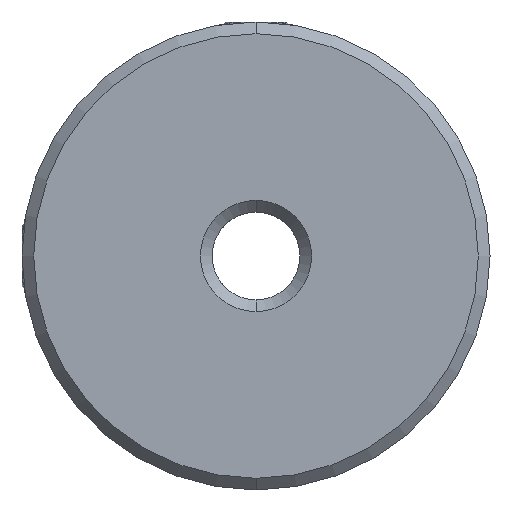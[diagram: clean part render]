
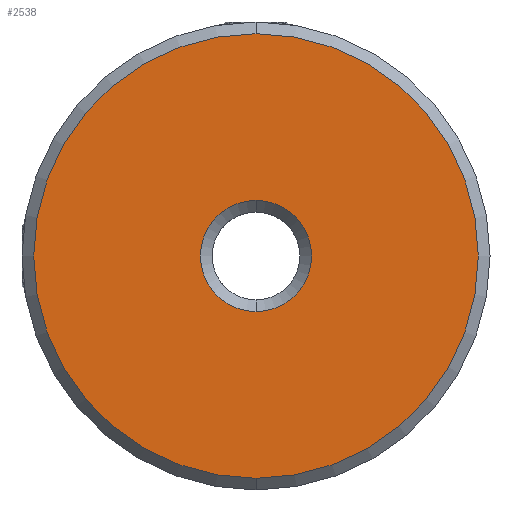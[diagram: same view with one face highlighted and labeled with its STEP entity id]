
A CAD part, front view. The second image highlights one B-rep face of the part: STEP entity #2538.
In plain terms, the highlighted planar face has unit normal (0, -1, 0).
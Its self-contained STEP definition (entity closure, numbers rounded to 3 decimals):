
#33 = AXIS2_PLACEMENT_3D ( 'NONE', #422, #2692, #1279 ) ;
#123 = EDGE_CURVE ( 'NONE', #1319, #2239, #2791, .T. ) ;
#169 = AXIS2_PLACEMENT_3D ( 'NONE', #3272, #1858, #2989 ) ;
#281 = EDGE_CURVE ( 'NONE', #550, #3284, #2095, .T. ) ;
#422 = CARTESIAN_POINT ( 'NONE',  ( -10.188, -0.277, 0.046 ) ) ;
#425 = PLANE ( 'NONE',  #169 ) ;
#531 = CARTESIAN_POINT ( 'NONE',  ( -10.188, -0.277, 3.846 ) ) ;
#550 = VERTEX_POINT ( 'NONE', #998 ) ;
#601 = DIRECTION ( 'NONE',  ( 0., 1., 0. ) ) ;
#730 = EDGE_LOOP ( 'NONE', ( #1212, #1958 ) ) ;
#967 = AXIS2_PLACEMENT_3D ( 'NONE', #3091, #2463, #3319 ) ;
#973 = EDGE_CURVE ( 'NONE', #3284, #550, #1345, .T. ) ;
#997 = DIRECTION ( 'NONE',  ( 0., 1., 0. ) ) ;
#998 = CARTESIAN_POINT ( 'NONE',  ( -10.188, -0.277, -15.154 ) ) ;
#1166 = CARTESIAN_POINT ( 'NONE',  ( -10.188, -0.277, 0.046 ) ) ;
#1212 = ORIENTED_EDGE ( 'NONE', *, *, #973, .T. ) ;
#1279 = DIRECTION ( 'NONE',  ( 0., 0., 1. ) ) ;
#1319 = VERTEX_POINT ( 'NONE', #531 ) ;
#1345 = CIRCLE ( 'NONE', #33, 15.2 ) ;
#1579 = FACE_BOUND ( 'NONE', #1649, .T. ) ;
#1649 = EDGE_LOOP ( 'NONE', ( #3583, #2754 ) ) ;
#1858 = DIRECTION ( 'NONE',  ( 0., 1., 0. ) ) ;
#1872 = FACE_OUTER_BOUND ( 'NONE', #730, .T. ) ;
#1958 = ORIENTED_EDGE ( 'NONE', *, *, #281, .T. ) ;
#2088 = AXIS2_PLACEMENT_3D ( 'NONE', #1166, #601, #2878 ) ;
#2095 = CIRCLE ( 'NONE', #967, 15.2 ) ;
#2239 = VERTEX_POINT ( 'NONE', #2801 ) ;
#2463 = DIRECTION ( 'NONE',  ( 0., -1., 0. ) ) ;
#2538 = ADVANCED_FACE ( 'NONE', ( #1872, #1579 ), #425, .F. ) ;
#2673 = EDGE_CURVE ( 'NONE', #2239, #1319, #2727, .T. ) ;
#2692 = DIRECTION ( 'NONE',  ( 0., -1., 0. ) ) ;
#2702 = CARTESIAN_POINT ( 'NONE',  ( -10.188, -0.277, 0.046 ) ) ;
#2727 = CIRCLE ( 'NONE', #3212, 3.8 ) ;
#2754 = ORIENTED_EDGE ( 'NONE', *, *, #123, .T. ) ;
#2791 = CIRCLE ( 'NONE', #2088, 3.8 ) ;
#2801 = CARTESIAN_POINT ( 'NONE',  ( -10.188, -0.277, -3.754 ) ) ;
#2878 = DIRECTION ( 'NONE',  ( 0., 0., 1. ) ) ;
#2909 = DIRECTION ( 'NONE',  ( 0., 0., 1. ) ) ;
#2989 = DIRECTION ( 'NONE',  ( 0., 0., 1. ) ) ;
#3091 = CARTESIAN_POINT ( 'NONE',  ( -10.188, -0.277, 0.046 ) ) ;
#3212 = AXIS2_PLACEMENT_3D ( 'NONE', #2702, #997, #2909 ) ;
#3272 = CARTESIAN_POINT ( 'NONE',  ( -10.188, -0.277, 0.046 ) ) ;
#3284 = VERTEX_POINT ( 'NONE', #3481 ) ;
#3319 = DIRECTION ( 'NONE',  ( 0., 0., 1. ) ) ;
#3481 = CARTESIAN_POINT ( 'NONE',  ( -10.188, -0.277, 15.246 ) ) ;
#3583 = ORIENTED_EDGE ( 'NONE', *, *, #2673, .T. ) ;
